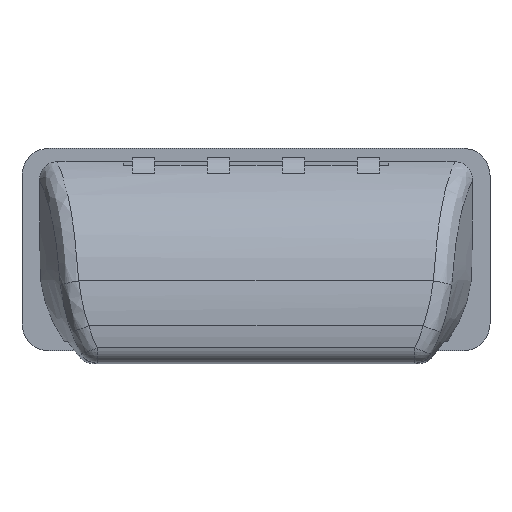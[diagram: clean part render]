
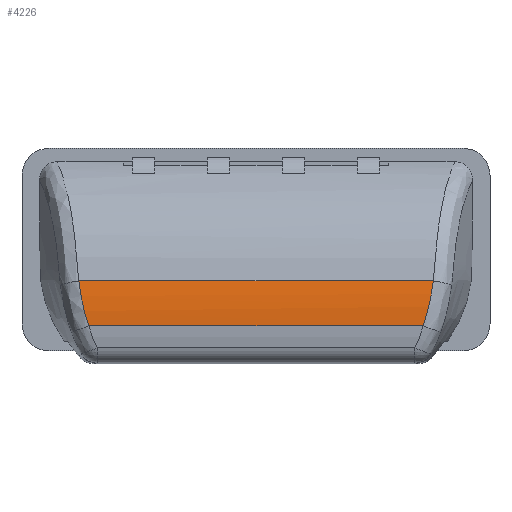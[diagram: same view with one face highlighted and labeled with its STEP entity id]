
A CAD part, top view. The second image highlights one B-rep face of the part: STEP entity #4226.
In plain terms, the highlighted free-form (B-spline) face has degree [3, 1] with [4, 2] control points.
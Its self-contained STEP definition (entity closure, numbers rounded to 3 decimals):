
#59 = EDGE_LOOP ( 'NONE', ( #1280, #4063, #217, #3146 ) ) ;
#104 = CARTESIAN_POINT ( 'NONE',  ( -104.014, -7., 19.67 ) ) ;
#202 = FACE_OUTER_BOUND ( 'NONE', #59, .T. ) ;
#217 = ORIENTED_EDGE ( 'NONE', *, *, #5411, .F. ) ;
#321 = CARTESIAN_POINT ( 'NONE',  ( -25.21, -7., 19.67 ) ) ;
#391 = LINE ( 'NONE', #442, #4736 ) ;
#439 = VERTEX_POINT ( 'NONE', #2265 ) ;
#442 = CARTESIAN_POINT ( 'NONE',  ( -112.612, -17., 20.227 ) ) ;
#524 = CARTESIAN_POINT ( 'NONE',  ( -112.612, -7., 19.67 ) ) ;
#528 = CARTESIAN_POINT ( 'NONE',  ( -103.591, -10.328, 20.165 ) ) ;
#567 = CARTESIAN_POINT ( 'NONE',  ( -27.435, -17., 20.227 ) ) ;
#652 = CARTESIAN_POINT ( 'NONE',  ( -104.487, -7., 19.67 ) ) ;
#1280 = ORIENTED_EDGE ( 'NONE', *, *, #2262, .T. ) ;
#1355 = CARTESIAN_POINT ( 'NONE',  ( -26.473, -13.812, 20.295 ) ) ;
#1389 = B_SPLINE_CURVE_WITH_KNOTS ( 'NONE', 3,
 ( #1564, #4274, #528, #104 ),
 .UNSPECIFIED., .F., .F.,
 ( 4, 4 ),
 ( 0., 1. ),
 .UNSPECIFIED. ) ;
#1413 = EDGE_CURVE ( 'NONE', #439, #1725, #1389, .T. ) ;
#1534 = CARTESIAN_POINT ( 'NONE',  ( -24.737, -17., 20.227 ) ) ;
#1564 = CARTESIAN_POINT ( 'NONE',  ( -101.789, -17., 20.227 ) ) ;
#1656 = CARTESIAN_POINT ( 'NONE',  ( -24.737, -10.311, 20.162 ) ) ;
#1716 = CARTESIAN_POINT ( 'NONE',  ( -27.435, -17., 20.227 ) ) ;
#1725 = VERTEX_POINT ( 'NONE', #2550 ) ;
#1990 = CARTESIAN_POINT ( 'NONE',  ( -24.737, -13.658, 20.388 ) ) ;
#2051 = CARTESIAN_POINT ( 'NONE',  ( -104.487, -17., 20.227 ) ) ;
#2262 = EDGE_CURVE ( 'NONE', #439, #2788, #391, .T. ) ;
#2265 = CARTESIAN_POINT ( 'NONE',  ( -101.789, -17., 20.227 ) ) ;
#2461 = LINE ( 'NONE', #524, #5099 ) ;
#2550 = CARTESIAN_POINT ( 'NONE',  ( -104.014, -7., 19.67 ) ) ;
#2657 = DIRECTION ( 'NONE',  ( 1., 0., 0. ) ) ;
#2788 = VERTEX_POINT ( 'NONE', #567 ) ;
#3146 = ORIENTED_EDGE ( 'NONE', *, *, #1413, .F. ) ;
#3200 = CARTESIAN_POINT ( 'NONE',  ( -25.434, -8.758, 19.931 ) ) ;
#3384 = CARTESIAN_POINT ( 'NONE',  ( -24.737, -7., 19.67 ) ) ;
#4063 = ORIENTED_EDGE ( 'NONE', *, *, #4279, .T. ) ;
#4226 = ADVANCED_FACE ( 'NONE', ( #202 ), #5646, .T. ) ;
#4274 = CARTESIAN_POINT ( 'NONE',  ( -102.877, -13.711, 20.385 ) ) ;
#4279 = EDGE_CURVE ( 'NONE', #2788, #5276, #4824, .T. ) ;
#4333 = CARTESIAN_POINT ( 'NONE',  ( -104.487, -13.658, 20.388 ) ) ;
#4517 = CARTESIAN_POINT ( 'NONE',  ( -26.917, -15.433, 20.302 ) ) ;
#4736 = VECTOR ( 'NONE', #2657, 1000. ) ;
#4824 = B_SPLINE_CURVE_WITH_KNOTS ( 'NONE', 3,
 ( #1716, #4517, #1355, #5506, #3200, #321 ),
 .UNSPECIFIED., .F., .F.,
 ( 4, 2, 4 ),
 ( 0., 0.5, 1. ),
 .UNSPECIFIED. ) ;
#5099 = VECTOR ( 'NONE', #5224, 1000. ) ;
#5224 = DIRECTION ( 'NONE',  ( 1., 0., 0. ) ) ;
#5261 = CARTESIAN_POINT ( 'NONE',  ( -104.487, -10.311, 20.162 ) ) ;
#5276 = VERTEX_POINT ( 'NONE', #5700 ) ;
#5411 = EDGE_CURVE ( 'NONE', #1725, #5276, #2461, .T. ) ;
#5506 = CARTESIAN_POINT ( 'NONE',  ( -25.731, -10.475, 20.109 ) ) ;
#5646 = B_SPLINE_SURFACE_WITH_KNOTS ( 'NONE', 3, 1, ( 
 ( #652, #3384 ),
 ( #5261, #1656 ),
 ( #4333, #1990 ),
 ( #2051, #1534 ) ),
 .UNSPECIFIED., .F., .F., .F.,
 ( 4, 4 ),
 ( 2, 2 ),
 ( 0., 1. ),
 ( 0., 1. ),
 .UNSPECIFIED. ) ;
#5700 = CARTESIAN_POINT ( 'NONE',  ( -25.21, -7., 19.67 ) ) ;
